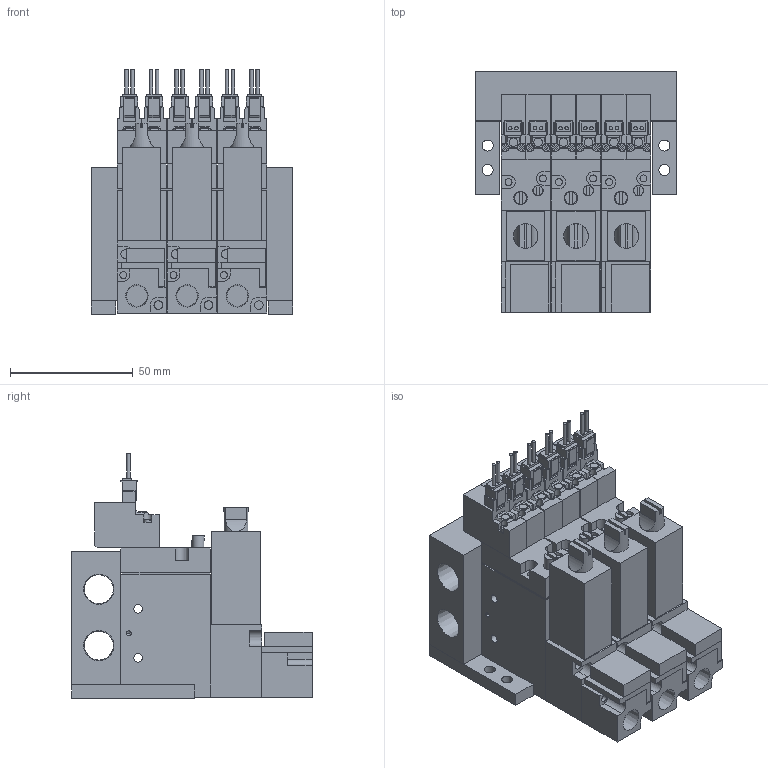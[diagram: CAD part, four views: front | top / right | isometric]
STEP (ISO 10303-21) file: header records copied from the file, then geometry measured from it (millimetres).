
FILE_DESCRIPTION(('STEP AP203'),'1');
FILE_NAME('BMPV32M2NZ25BL303.stp','2025-06-17T01:46:33',(' '),(' '),'Spatial InterOp 3D',' ',' ');
FILE_SCHEMA(('CONFIG_CONTROL_DESIGN'));
Length unit declared in the file: millimetre
Products named in the file (40): BMPV32M2NZ25BL303; S____; ___ ___2; ___-2(Rc); Filter Assy; __; _____; MB03; MB BRACKET; ___; upper plate-A; ______; ____; VACUUM VALVE FUNCTION MPV42-A
Assembly tree (39 placements, depth 2):
  BMPV32M2NZ25BL303
    S____
    ___ ___2
    ___-2(Rc)
    Filter Assy
    __
    _____
    S____
    ___ ___2
    ___-2(Rc)
    Filter Assy
    __
    _____
    MB03
    MB BRACKET
    MB BRACKET
    S____
    ___ ___2
    ___-2(Rc)
    Filter Assy
    __
    _____
    ___
    upper plate-A
    ______
    ____
    VACUUM VALVE FUNCTION MPV42-A
    VACUUM VALVE FUNCTION MPV42-A
    ___
    upper plate-A
    ______
    ____
    VACUUM VALVE FUNCTION MPV42-A
    VACUUM VALVE FUNCTION MPV42-A
    ___
    upper plate-A
    ______
    ____
    VACUUM VALVE FUNCTION MPV42-A
    VACUUM VALVE FUNCTION MPV42-A
Bounding box: 82 x 98 x 99.75 mm (x, y, z)
Volume: 330857.1 mm3; surface area: 114284.9 mm2
Topology: 39 solids, 39 shells, 1064 faces, 2785 edges, 1852 vertices
Faces by surface type: plane 855, cylinder 183, cone 26
Full cylindrical faces by diameter (mm): 1.4 x12, 1.8 x6, 2 x6, 2.5 x10, 2.8 x12, 3 x12, 3.5 x34, 4 x3, 4.2 x3, 4.5 x4, 5 x3, 5.5 x3, 6.5 x6, 8.522 x3, 11.776 x2
Entity records: 33663 total; most frequent: CARTESIAN_POINT 5718, DIRECTION 5253, ORIENTED_EDGE 5158, EDGE_CURVE 2579, LINE 2089, VECTOR 2089, VERTEX_POINT 1813, AXIS2_PLACEMENT_3D 1582
